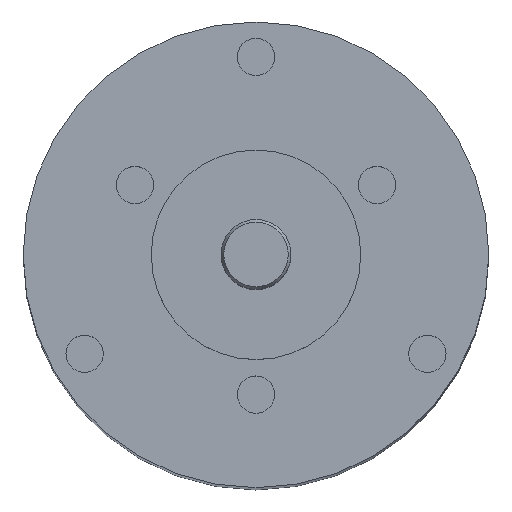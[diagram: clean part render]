
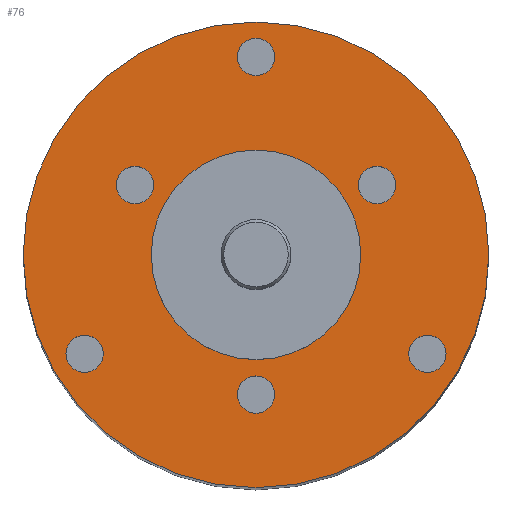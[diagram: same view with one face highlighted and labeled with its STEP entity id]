
A CAD part, top view. The second image highlights one B-rep face of the part: STEP entity #76.
In plain terms, the highlighted planar face has unit normal (0, 0, 1).
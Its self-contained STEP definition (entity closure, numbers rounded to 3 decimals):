
#54=PLANE('',#509);
#76=ADVANCED_FACE('',(#139,#140,#141,#142,#143,#144,#145,#146),#54,.T.);
#139=FACE_BOUND('',#208,.T.);
#140=FACE_BOUND('',#209,.T.);
#141=FACE_BOUND('',#210,.T.);
#142=FACE_BOUND('',#211,.T.);
#143=FACE_BOUND('',#212,.T.);
#144=FACE_BOUND('',#213,.T.);
#145=FACE_BOUND('',#214,.T.);
#146=FACE_BOUND('',#215,.T.);
#208=EDGE_LOOP('',(#292));
#209=EDGE_LOOP('',(#293));
#210=EDGE_LOOP('',(#294));
#211=EDGE_LOOP('',(#295));
#212=EDGE_LOOP('',(#296));
#213=EDGE_LOOP('',(#297));
#214=EDGE_LOOP('',(#298));
#215=EDGE_LOOP('',(#299));
#292=ORIENTED_EDGE('',*,*,#418,.T.);
#293=ORIENTED_EDGE('',*,*,#419,.T.);
#294=ORIENTED_EDGE('',*,*,#420,.T.);
#295=ORIENTED_EDGE('',*,*,#421,.T.);
#296=ORIENTED_EDGE('',*,*,#422,.T.);
#297=ORIENTED_EDGE('',*,*,#423,.T.);
#298=ORIENTED_EDGE('',*,*,#424,.F.);
#299=ORIENTED_EDGE('',*,*,#416,.F.);
#374=VERTEX_POINT('',#749);
#376=VERTEX_POINT('',#754);
#377=VERTEX_POINT('',#756);
#378=VERTEX_POINT('',#758);
#379=VERTEX_POINT('',#760);
#380=VERTEX_POINT('',#762);
#381=VERTEX_POINT('',#764);
#382=VERTEX_POINT('',#766);
#416=EDGE_CURVE('',#374,#374,#458,.T.);
#418=EDGE_CURVE('',#376,#376,#460,.T.);
#419=EDGE_CURVE('',#377,#377,#461,.T.);
#420=EDGE_CURVE('',#378,#378,#462,.T.);
#421=EDGE_CURVE('',#379,#379,#463,.T.);
#422=EDGE_CURVE('',#380,#380,#464,.T.);
#423=EDGE_CURVE('',#381,#381,#465,.T.);
#424=EDGE_CURVE('',#382,#382,#466,.T.);
#458=CIRCLE('',#499,10.);
#460=CIRCLE('',#502,0.8);
#461=CIRCLE('',#503,0.8);
#462=CIRCLE('',#504,0.8);
#463=CIRCLE('',#505,0.8);
#464=CIRCLE('',#506,0.8);
#465=CIRCLE('',#507,0.8);
#466=CIRCLE('',#508,4.5);
#499=AXIS2_PLACEMENT_3D('',#748,#583,#584);
#502=AXIS2_PLACEMENT_3D('',#753,#589,#590);
#503=AXIS2_PLACEMENT_3D('',#755,#591,#592);
#504=AXIS2_PLACEMENT_3D('',#757,#593,#594);
#505=AXIS2_PLACEMENT_3D('',#759,#595,#596);
#506=AXIS2_PLACEMENT_3D('',#761,#597,#598);
#507=AXIS2_PLACEMENT_3D('',#763,#599,#600);
#508=AXIS2_PLACEMENT_3D('',#765,#601,#602);
#509=AXIS2_PLACEMENT_3D('',#767,#603,#604);
#583=DIRECTION('',(0.,0.,-1.));
#584=DIRECTION('',(1.,0.,0.));
#589=DIRECTION('',(0.,0.,-1.));
#590=DIRECTION('',(0.5,0.866,0.));
#591=DIRECTION('',(0.,0.,-1.));
#592=DIRECTION('',(0.5,-0.866,0.));
#593=DIRECTION('',(0.,0.,-1.));
#594=DIRECTION('',(-1.,0.,0.));
#595=DIRECTION('',(0.,0.,-1.));
#596=DIRECTION('',(0.5,0.866,0.));
#597=DIRECTION('',(0.,0.,-1.));
#598=DIRECTION('',(0.5,-0.866,0.));
#599=DIRECTION('',(0.,0.,-1.));
#600=DIRECTION('',(-1.,0.,0.));
#601=DIRECTION('',(0.,0.,1.));
#602=DIRECTION('',(1.,0.,0.));
#603=DIRECTION('',(0.,0.,1.));
#604=DIRECTION('',(1.,0.,0.));
#748=CARTESIAN_POINT('',(0.,0.,0.));
#749=CARTESIAN_POINT('',(10.,0.,0.));
#753=CARTESIAN_POINT('',(5.196,3.,0.));
#754=CARTESIAN_POINT('',(5.596,3.693,0.));
#755=CARTESIAN_POINT('',(0.,-6.,0.));
#756=CARTESIAN_POINT('',(0.4,-6.693,0.));
#757=CARTESIAN_POINT('',(-5.196,3.,0.));
#758=CARTESIAN_POINT('',(-5.996,3.,0.));
#759=CARTESIAN_POINT('',(7.361,-4.25,0.));
#760=CARTESIAN_POINT('',(7.761,-3.557,0.));
#761=CARTESIAN_POINT('',(-7.361,-4.25,0.));
#762=CARTESIAN_POINT('',(-6.961,-4.943,0.));
#763=CARTESIAN_POINT('',(0.,8.5,0.));
#764=CARTESIAN_POINT('',(-0.8,8.5,0.));
#765=CARTESIAN_POINT('',(0.,0.,0.));
#766=CARTESIAN_POINT('',(4.5,0.,0.));
#767=CARTESIAN_POINT('',(0.,0.,0.));
